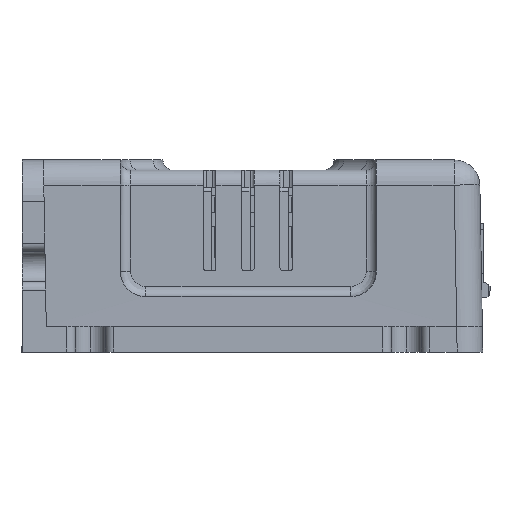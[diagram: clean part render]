
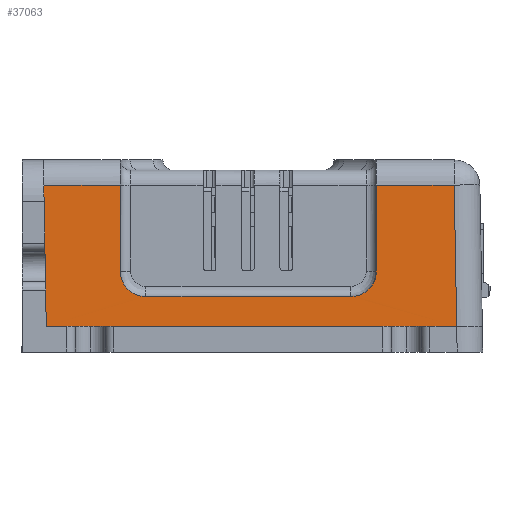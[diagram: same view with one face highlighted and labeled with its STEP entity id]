
A CAD part, left-side view. The second image highlights one B-rep face of the part: STEP entity #37063.
In plain terms, the highlighted planar face has unit normal (-1, 0, 0.018).
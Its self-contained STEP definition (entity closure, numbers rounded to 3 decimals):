
#1196 = CARTESIAN_POINT ( 'NONE',  ( -206.151, -11.215, 3.078 ) ) ;
#1268 = CARTESIAN_POINT ( 'NONE',  ( -206.1, -9., 6. ) ) ;
#3124 = FACE_OUTER_BOUND ( 'NONE', #28905, .T. ) ;
#3696 = ORIENTED_EDGE ( 'NONE', *, *, #37225, .F. ) ;
#4231 = CARTESIAN_POINT ( 'NONE',  ( -205.924, -25.7, 16.052 ) ) ;
#6055 = LINE ( 'NONE', #63962, #53035 ) ;
#6191 = CARTESIAN_POINT ( 'NONE',  ( -206.145, -37.511, 3.379 ) ) ;
#7147 = CARTESIAN_POINT ( 'NONE',  ( -206.147, -12., 3. ) ) ;
#7890 = AXIS2_PLACEMENT_3D ( 'NONE', #33469, #45596, #10366 ) ;
#8270 = EDGE_CURVE ( 'NONE', #22011, #50812, #6055, .T. ) ;
#8295 = VERTEX_POINT ( 'NONE', #34854 ) ;
#8724 = EDGE_CURVE ( 'NONE', #19717, #35513, #74109, .T. ) ;
#9134 = CARTESIAN_POINT ( 'NONE',  ( -206.213, -9., -0.5 ) ) ;
#10366 = DIRECTION ( 'NONE',  ( -0.017, 0., -1. ) ) ;
#10513 = CARTESIAN_POINT ( 'NONE',  ( -205.924, -39., 16.052 ) ) ;
#11266 = CARTESIAN_POINT ( 'NONE',  ( -206.213, -0.34, -0.5 ) ) ;
#11923 = CARTESIAN_POINT ( 'NONE',  ( -206.147, -12., 3. ) ) ;
#12125 = CARTESIAN_POINT ( 'NONE',  ( -206.132, -38.399, 4.156 ) ) ;
#13249 = VECTOR ( 'NONE', #18417, 1000. ) ;
#13448 = VERTEX_POINT ( 'NONE', #11266 ) ;
#15507 = DIRECTION ( 'NONE',  ( 0., -1., 0. ) ) ;
#18042 = CARTESIAN_POINT ( 'NONE',  ( -206.113, -38.922, 5.215 ) ) ;
#18417 = DIRECTION ( 'NONE',  ( 0., -1., 0. ) ) ;
#18718 = CARTESIAN_POINT ( 'NONE',  ( -206.1, -9., 6. ) ) ;
#19717 = VERTEX_POINT ( 'NONE', #67612 ) ;
#19759 = EDGE_CURVE ( 'NONE', #62080, #8295, #70919, .T. ) ;
#20251 = LINE ( 'NONE', #50732, #47887 ) ;
#21050 = CARTESIAN_POINT ( 'NONE',  ( -205.924, -48.112, 16.052 ) ) ;
#21294 = VECTOR ( 'NONE', #63933, 1000. ) ;
#22011 = VERTEX_POINT ( 'NONE', #31507 ) ;
#23545 = ORIENTED_EDGE ( 'NONE', *, *, #76299, .F. ) ;
#23971 = CARTESIAN_POINT ( 'NONE',  ( -206.1, -39., 6. ) ) ;
#24679 = CARTESIAN_POINT ( 'NONE',  ( -206.113, -9.078, 5.215 ) ) ;
#25143 = CARTESIAN_POINT ( 'NONE',  ( -205.924, -0.051, 16.052 ) ) ;
#25828 = CARTESIAN_POINT ( 'NONE',  ( -206.147, -36., 3. ) ) ;
#27178 = VECTOR ( 'NONE', #73649, 1000. ) ;
#27642 = DIRECTION ( 'NONE',  ( 0., -1., 0. ) ) ;
#28669 = DIRECTION ( 'NONE',  ( 0.017, 0., 1. ) ) ;
#28905 = EDGE_LOOP ( 'NONE', ( #29108, #62210, #53248, #62723, #64337, #34968, #58770, #23545, #33483, #3696 ) ) ;
#29108 = ORIENTED_EDGE ( 'NONE', *, *, #61677, .F. ) ;
#30515 = CARTESIAN_POINT ( 'NONE',  ( -206.132, -9.601, 4.157 ) ) ;
#31507 = CARTESIAN_POINT ( 'NONE',  ( -206.1, -39., 6. ) ) ;
#31627 = LINE ( 'NONE', #25143, #62982 ) ;
#33469 = CARTESIAN_POINT ( 'NONE',  ( -206.213, -25.7, -0.5 ) ) ;
#33483 = ORIENTED_EDGE ( 'NONE', *, *, #8270, .F. ) ;
#34312 = CARTESIAN_POINT ( 'NONE',  ( -206.152, -12., 3. ) ) ;
#34854 = CARTESIAN_POINT ( 'NONE',  ( -206.213, -48.4, -0.5 ) ) ;
#34968 = ORIENTED_EDGE ( 'NONE', *, *, #51105, .T. ) ;
#35499 = CARTESIAN_POINT ( 'NONE',  ( -206.152, -36.393, 3. ) ) ;
#35513 = VERTEX_POINT ( 'NONE', #1268 ) ;
#36229 = B_SPLINE_CURVE_WITH_KNOTS ( 'NONE', 3,
 ( #18718, #54006, #24679, #65807, #30515, #71692, #36461, #1196, #42390, #7147 ),
 .UNSPECIFIED., .F., .F.,
 ( 4, 2, 2, 2, 4 ),
 ( 0., 0.001, 0.002, 0.004, 0.005 ),
 .UNSPECIFIED. ) ;
#36461 = CARTESIAN_POINT ( 'NONE',  ( -206.145, -10.489, 3.379 ) ) ;
#37063 = ADVANCED_FACE ( 'NONE', ( #3124 ), #68974, .F. ) ;
#37225 = EDGE_CURVE ( 'NONE', #72977, #22011, #44724, .T. ) ;
#38761 = LINE ( 'NONE', #34312, #21294 ) ;
#41428 = CARTESIAN_POINT ( 'NONE',  ( -206.151, -36.785, 3.078 ) ) ;
#41562 = CARTESIAN_POINT ( 'NONE',  ( -206.213, 0., -0.5 ) ) ;
#42281 = EDGE_CURVE ( 'NONE', #69057, #13448, #31627, .T. ) ;
#42390 = CARTESIAN_POINT ( 'NONE',  ( -206.152, -11.607, 3. ) ) ;
#42533 = EDGE_CURVE ( 'NONE', #69057, #19717, #56502, .T. ) ;
#44724 = B_SPLINE_CURVE_WITH_KNOTS ( 'NONE', 3,
 ( #70731, #35499, #41428, #6191, #47372, #12125, #53299, #18042, #59188, #23971 ),
 .UNSPECIFIED., .F., .F.,
 ( 4, 2, 2, 2, 4 ),
 ( 0., 0.001, 0.002, 0.004, 0.005 ),
 .UNSPECIFIED. ) ;
#45596 = DIRECTION ( 'NONE',  ( 1., 0., -0.017 ) ) ;
#46400 = LINE ( 'NONE', #41562, #13249 ) ;
#47372 = CARTESIAN_POINT ( 'NONE',  ( -206.142, -37.844, 3.601 ) ) ;
#47887 = VECTOR ( 'NONE', #15507, 1000. ) ;
#50732 = CARTESIAN_POINT ( 'NONE',  ( -205.924, -25.7, 16.052 ) ) ;
#50812 = VERTEX_POINT ( 'NONE', #10513 ) ;
#51105 = EDGE_CURVE ( 'NONE', #13448, #8295, #46400, .T. ) ;
#53035 = VECTOR ( 'NONE', #28669, 1000. ) ;
#53248 = ORIENTED_EDGE ( 'NONE', *, *, #8724, .F. ) ;
#53299 = CARTESIAN_POINT ( 'NONE',  ( -206.126, -38.621, 4.489 ) ) ;
#54006 = CARTESIAN_POINT ( 'NONE',  ( -206.107, -9., 5.607 ) ) ;
#54652 = VECTOR ( 'NONE', #27642, 1000. ) ;
#56502 = LINE ( 'NONE', #4231, #54652 ) ;
#58770 = ORIENTED_EDGE ( 'NONE', *, *, #19759, .F. ) ;
#59188 = CARTESIAN_POINT ( 'NONE',  ( -206.107, -39., 5.607 ) ) ;
#60369 = DIRECTION ( 'NONE',  ( -0.017, -0.017, -1. ) ) ;
#61677 = EDGE_CURVE ( 'NONE', #66215, #72977, #38761, .T. ) ;
#62080 = VERTEX_POINT ( 'NONE', #67469 ) ;
#62210 = ORIENTED_EDGE ( 'NONE', *, *, #62889, .F. ) ;
#62723 = ORIENTED_EDGE ( 'NONE', *, *, #42533, .F. ) ;
#62889 = EDGE_CURVE ( 'NONE', #35513, #66215, #36229, .T. ) ;
#62982 = VECTOR ( 'NONE', #60369, 1000. ) ;
#63933 = DIRECTION ( 'NONE',  ( 0., -1., 0. ) ) ;
#63962 = CARTESIAN_POINT ( 'NONE',  ( -206.213, -39., -0.5 ) ) ;
#64337 = ORIENTED_EDGE ( 'NONE', *, *, #42281, .T. ) ;
#65807 = CARTESIAN_POINT ( 'NONE',  ( -206.126, -9.378, 4.49 ) ) ;
#66215 = VERTEX_POINT ( 'NONE', #11923 ) ;
#67469 = CARTESIAN_POINT ( 'NONE',  ( -205.924, -48.112, 16.052 ) ) ;
#67612 = CARTESIAN_POINT ( 'NONE',  ( -205.924, -9., 16.052 ) ) ;
#68111 = DIRECTION ( 'NONE',  ( -0.017, -0.017, -1. ) ) ;
#68974 = PLANE ( 'NONE',  #7890 ) ;
#69057 = VERTEX_POINT ( 'NONE', #72206 ) ;
#69093 = VECTOR ( 'NONE', #68111, 1000. ) ;
#70731 = CARTESIAN_POINT ( 'NONE',  ( -206.147, -36., 3. ) ) ;
#70919 = LINE ( 'NONE', #21050, #69093 ) ;
#71692 = CARTESIAN_POINT ( 'NONE',  ( -206.142, -10.156, 3.601 ) ) ;
#72206 = CARTESIAN_POINT ( 'NONE',  ( -205.924, -0.051, 16.052 ) ) ;
#72977 = VERTEX_POINT ( 'NONE', #25828 ) ;
#73649 = DIRECTION ( 'NONE',  ( -0.017, 0., -1. ) ) ;
#74109 = LINE ( 'NONE', #9134, #27178 ) ;
#76299 = EDGE_CURVE ( 'NONE', #50812, #62080, #20251, .T. ) ;
